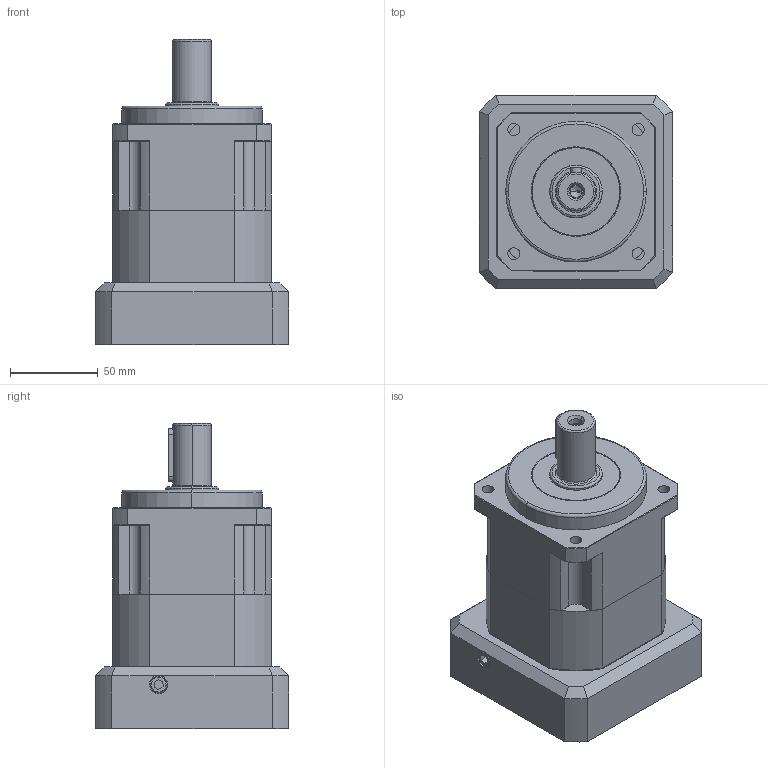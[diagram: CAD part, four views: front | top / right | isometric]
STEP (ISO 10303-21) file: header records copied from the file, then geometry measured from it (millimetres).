
FILE_DESCRIPTION (( 'STEP AP203' ), '1' );
FILE_NAME ('SB90-1-95M8-2.STEP', '2011-07-12T01:12:40', ( '1' ), ( '' ), 'SwSTEP 2.0', 'SolidWorks 2011', '' );
FILE_SCHEMA (( 'CONFIG_CONTROL_DESIGN' ));
Length unit declared in the file: millimetre
Products named in the file (1): SB90-1-95M8-2
Bounding box: 110 x 110 x 173.5 mm (x, y, z)
Volume: 792115.4 mm3; surface area: 153983.3 mm2
Topology: 16 solids, 16 shells, 618 faces, 1488 edges, 921 vertices
Faces by surface type: plane 253, cylinder 198, cone 115, torus 33, bspline 19
Entity records: 19986 total; most frequent: CARTESIAN_POINT 5438, DIRECTION 3117, ORIENTED_EDGE 2924, EDGE_CURVE 1462, AXIS2_PLACEMENT_3D 1186, VERTEX_POINT 921, VECTOR 745, LINE 745
